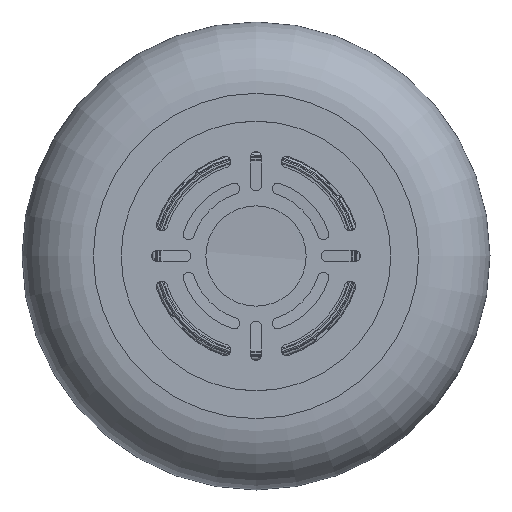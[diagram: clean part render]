
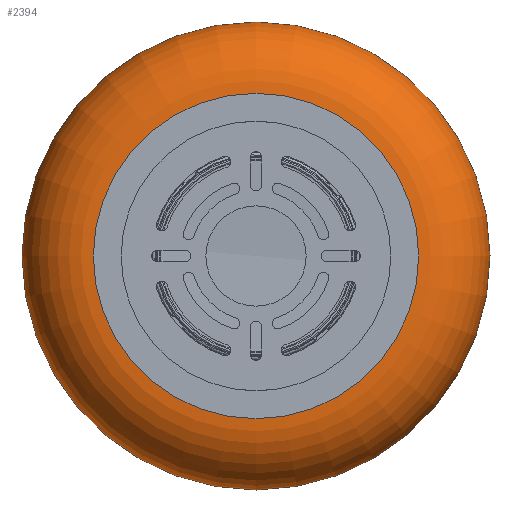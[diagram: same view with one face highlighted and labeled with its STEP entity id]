
A CAD part, left-side view. The second image highlights one B-rep face of the part: STEP entity #2394.
In plain terms, the highlighted toroidal (fillet/blend) face has major radius 73 mm and minor radius 32 mm.
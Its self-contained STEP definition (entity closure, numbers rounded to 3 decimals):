
#509=FACE_OUTER_BOUND('',#668,.T.);
#668=EDGE_LOOP('',(#1679,#1680,#1681,#1682,#1683));
#871=CIRCLE('',#2974,73.);
#872=CIRCLE('',#2976,105.);
#873=CIRCLE('',#2977,105.);
#874=CIRCLE('',#2978,32.);
#1054=VERTEX_POINT('',#4422);
#1055=VERTEX_POINT('',#4425);
#1056=VERTEX_POINT('',#4426);
#1289=EDGE_CURVE('',#1054,#1054,#871,.T.);
#1290=EDGE_CURVE('',#1055,#1056,#872,.T.);
#1291=EDGE_CURVE('',#1056,#1055,#873,.T.);
#1292=EDGE_CURVE('',#1056,#1054,#874,.T.);
#1679=ORIENTED_EDGE('',*,*,#1290,.F.);
#1680=ORIENTED_EDGE('',*,*,#1291,.F.);
#1681=ORIENTED_EDGE('',*,*,#1292,.T.);
#1682=ORIENTED_EDGE('',*,*,#1289,.T.);
#1683=ORIENTED_EDGE('',*,*,#1292,.F.);
#2373=TOROIDAL_SURFACE('',#2975,73.,32.);
#2394=ADVANCED_FACE('',(#509),#2373,.T.);
#2974=AXIS2_PLACEMENT_3D('',#4423,#3484,#3485);
#2975=AXIS2_PLACEMENT_3D('',#4424,#3486,#3487);
#2976=AXIS2_PLACEMENT_3D('',#4427,#3488,#3489);
#2977=AXIS2_PLACEMENT_3D('',#4428,#3490,#3491);
#2978=AXIS2_PLACEMENT_3D('',#4429,#3492,#3493);
#3484=DIRECTION('center_axis',(0.,-1.,0.));
#3485=DIRECTION('ref_axis',(1.,0.,0.));
#3486=DIRECTION('center_axis',(0.,-1.,0.));
#3487=DIRECTION('ref_axis',(0.,0.,-1.));
#3488=DIRECTION('center_axis',(0.,-1.,0.));
#3489=DIRECTION('ref_axis',(1.,0.,0.));
#3490=DIRECTION('center_axis',(0.,-1.,0.));
#3491=DIRECTION('ref_axis',(1.,0.,0.));
#3492=DIRECTION('center_axis',(-1.,0.,0.));
#3493=DIRECTION('ref_axis',(0.,0.,1.));
#4422=CARTESIAN_POINT('',(0.,110.,73.));
#4423=CARTESIAN_POINT('Origin',(0.,110.,0.));
#4424=CARTESIAN_POINT('Origin',(0.,78.,0.));
#4425=CARTESIAN_POINT('',(-105.,78.,0.));
#4426=CARTESIAN_POINT('',(0.,78.,105.));
#4427=CARTESIAN_POINT('Origin',(0.,78.,0.));
#4428=CARTESIAN_POINT('Origin',(0.,78.,0.));
#4429=CARTESIAN_POINT('Origin',(0.,78.,73.));
